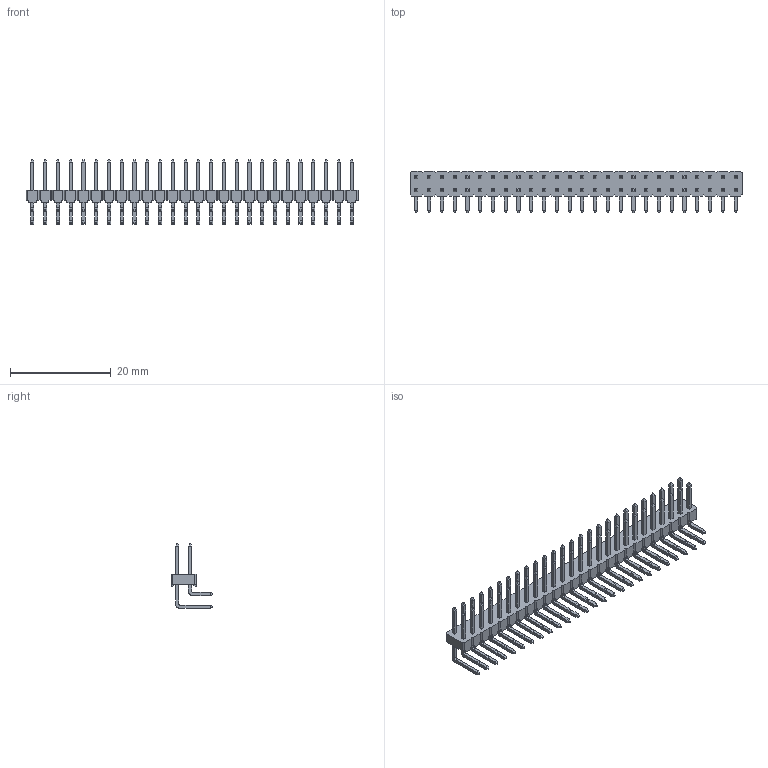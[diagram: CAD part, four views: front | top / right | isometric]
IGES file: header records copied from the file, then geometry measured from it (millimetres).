
Global section: file name: N:\GOLF_VI_2_54mm_UGII\961XXX-5X04-XX (TS-2182)\961252-5604-XX.igs; native system: NX V3.0; preprocessor: UGS NX IGES V4.0; date: 20070618.134035; units: millimetre
Bounding box: 66.04 x 8.3 x 12.86 mm (x, y, z)
Surface area: 2928 mm2 (no closed solid volume)
Topology: 0 solids, 0 shells, 1566 faces, 8033 edges, 8033 vertices
Faces by surface type: bspline 1566
